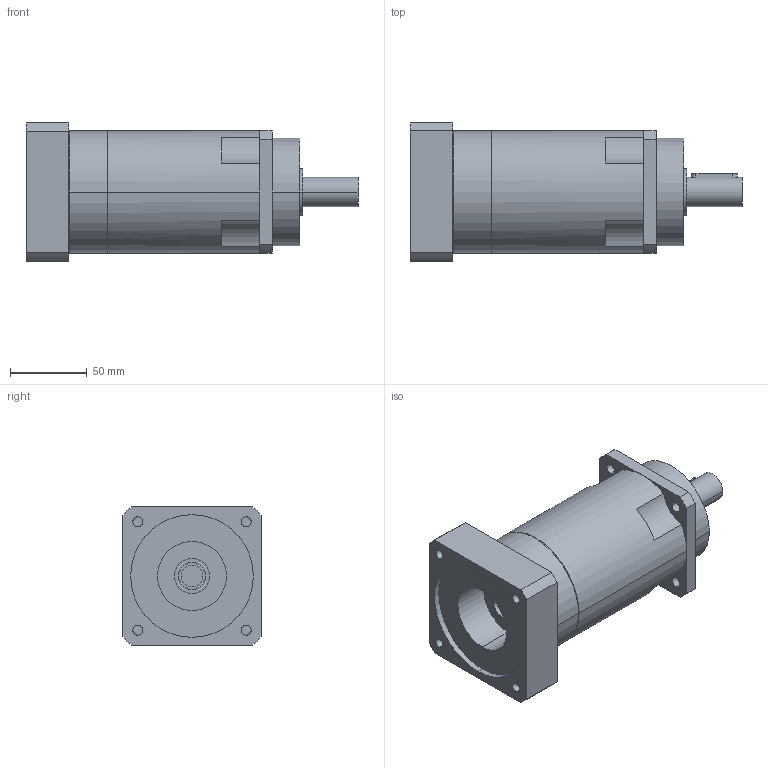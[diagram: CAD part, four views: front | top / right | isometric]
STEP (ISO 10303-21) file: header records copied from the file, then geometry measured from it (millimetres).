
FILE_DESCRIPTION(('CoCreate Modeling STEP Export'),'2;1');
FILE_NAME('GPR100_ig-48-64-80-100-120-144-180-216_19_B5_14_P28.stp','2014-08-26T11:54:50',(''),(''),'CoCreate Modeling STEP processor for AP214 (Solid Model)','CoCreate Modeling 16.00C 25-Feb-2009 (C) Parametric Technology GmbH','');
FILE_SCHEMA(('AUTOMOTIVE_DESIGN { 1 0 10303 214 1 1 1 1 }'));
Length unit declared in the file: millimetre
Products named in the file (2): GPR100_ig-48-64-80-100-120-144-180-216_19_B5_14_P28
Assembly tree (1 placements, depth 2):
  GPR100_ig-48-64-80-100-120-144-180-216_19_B5_14_P28
    GPR100_ig-48-64-80-100-120-144-180-216_19_B5_14_P28
Bounding box: 216.4 x 90 x 90 mm (x, y, z)
Volume: 907825.3 mm3; surface area: 78221.4 mm2
Topology: 1 solids, 1 shells, 89 faces, 246 edges, 168 vertices
Faces by surface type: cylinder 52, plane 31, cone 6
Entity records: 2607 total; most frequent: ORIENTED_EDGE 488, CARTESIAN_POINT 473, DIRECTION 386, EDGE_CURVE 244, VERTEX_POINT 168, AXIS2_PLACEMENT_3D 145, EDGE_LOOP 116, VECTOR 96
